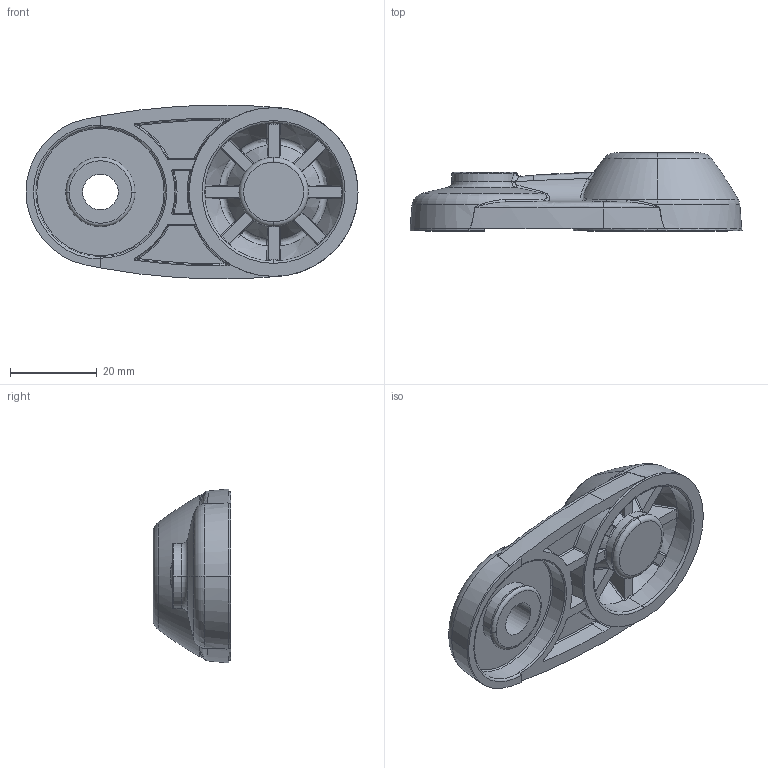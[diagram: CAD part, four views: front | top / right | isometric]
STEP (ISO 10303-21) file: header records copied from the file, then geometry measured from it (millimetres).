
FILE_DESCRIPTION(('STEP AP214'),'1');
FILE_NAME('fath_098da040k.stp','2017-10-10T10:37:13',('TraceParts'),('TraceParts S.A.'),'Spatial InterOp 3D',' ',' ');
FILE_SCHEMA(('automotive_design'));
Length unit declared in the file: millimetre
Products named in the file (1): fath_098da040k
Bounding box: 76.7 x 18 x 40.19 mm (x, y, z)
Volume: 18007.3 mm3; surface area: 10399.7 mm2
Topology: 1 solids, 1 shells, 313 faces, 784 edges, 450 vertices
Faces by surface type: bspline 116, torus 69, plane 43, cone 39, cylinder 24, sphere 22
Entity records: 14990 total; most frequent: CARTESIAN_POINT 6027, ORIENTED_EDGE 1516, DIRECTION 1183, EDGE_CURVE 758, AXIS2_PLACEMENT_3D 560, VERTEX_POINT 450, CIRCLE 362, B_SPLINE_CURVE_WITH_KNOTS 329
